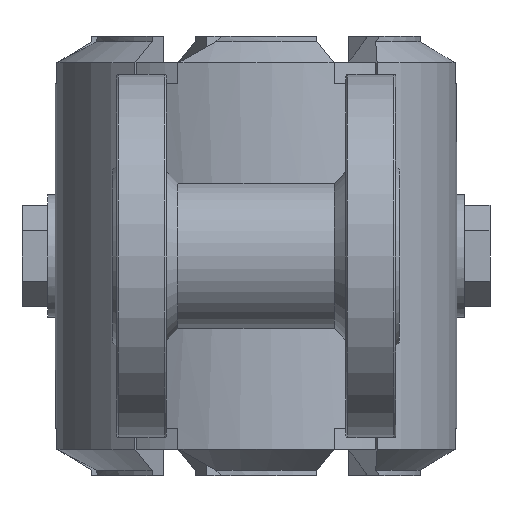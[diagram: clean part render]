
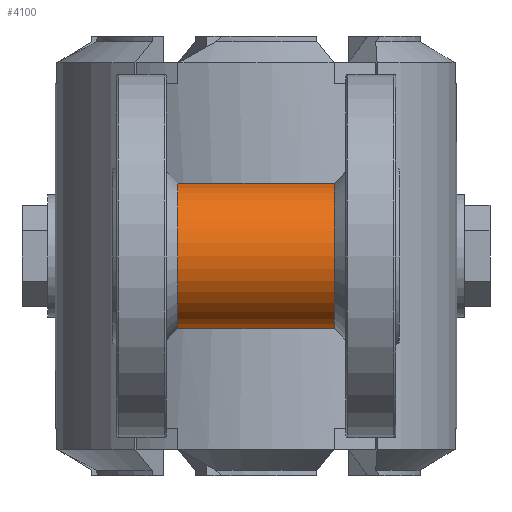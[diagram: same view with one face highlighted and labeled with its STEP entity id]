
A CAD part, front view. The second image highlights one B-rep face of the part: STEP entity #4100.
In plain terms, the highlighted cylindrical face has radius 19 mm (diameter 38 mm), a full revolution.
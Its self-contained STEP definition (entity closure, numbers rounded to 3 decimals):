
#2202=B_SPLINE_CURVE_WITH_KNOTS('',3,(#44150,#44151,#44152,#44153,#44154,
#44155,#44156,#44157,#44158,#44159),.UNSPECIFIED.,.F.,.F.,(4,2,2,2,4),(0.,
0.25,0.5,0.75,1.),.UNSPECIFIED.);
#2203=B_SPLINE_CURVE_WITH_KNOTS('',3,(#44164,#44165,#44166,#44167,#44168,
#44169,#44170,#44171,#44172,#44173),.UNSPECIFIED.,.F.,.F.,(4,2,2,2,4),(0.,
0.25,0.5,0.75,1.),.UNSPECIFIED.);
#2313=CYLINDRICAL_SURFACE('',#26986,19.);
#2499=FACE_BOUND('',#7547,.T.);
#2500=FACE_BOUND('',#7548,.T.);
#2501=FACE_BOUND('',#7549,.T.);
#2753=CIRCLE('',#26984,19.);
#2754=CIRCLE('',#26985,19.);
#4100=ADVANCED_FACE('',(#2499,#2500,#2501),#2313,.T.);
#7547=EDGE_LOOP('',(#14721,#14722,#14723,#14724));
#7548=EDGE_LOOP('',(#14725));
#7549=EDGE_LOOP('',(#14726));
#14721=ORIENTED_EDGE('',*,*,#20808,.F.);
#14722=ORIENTED_EDGE('',*,*,#20809,.F.);
#14723=ORIENTED_EDGE('',*,*,#20810,.F.);
#14724=ORIENTED_EDGE('',*,*,#20811,.F.);
#14725=ORIENTED_EDGE('',*,*,#20812,.T.);
#14726=ORIENTED_EDGE('',*,*,#20813,.T.);
#17213=VERTEX_POINT('',#44160);
#17214=VERTEX_POINT('',#44161);
#17215=VERTEX_POINT('',#44163);
#17216=VERTEX_POINT('',#44174);
#17217=VERTEX_POINT('',#44177);
#17218=VERTEX_POINT('',#44179);
#20808=EDGE_CURVE('',#17213,#17214,#2202,.T.);
#20809=EDGE_CURVE('',#17215,#17213,#23186,.T.);
#20810=EDGE_CURVE('',#17216,#17215,#2203,.T.);
#20811=EDGE_CURVE('',#17214,#17216,#23187,.T.);
#20812=EDGE_CURVE('',#17217,#17217,#2753,.T.);
#20813=EDGE_CURVE('',#17218,#17218,#2754,.T.);
#23186=LINE('',#44162,#26007);
#23187=LINE('',#44175,#26008);
#26007=VECTOR('',#31841,1.);
#26008=VECTOR('',#31842,1.);
#26984=AXIS2_PLACEMENT_3D('',#44176,#31843,#31844);
#26985=AXIS2_PLACEMENT_3D('',#44178,#31845,#31846);
#26986=AXIS2_PLACEMENT_3D('',#44180,#31847,#31848);
#31841=DIRECTION('',(-1.,0.,0.));
#31842=DIRECTION('',(1.,0.,0.));
#31843=DIRECTION('',(-1.,0.,0.));
#31844=DIRECTION('',(0.,0.,-1.));
#31845=DIRECTION('',(1.,0.,0.));
#31846=DIRECTION('',(0.,0.,1.));
#31847=DIRECTION('',(-1.,0.,0.));
#31848=DIRECTION('',(0.,0.,-1.));
#44150=CARTESIAN_POINT('',(-8.182,8.,-9.421));
#44151=CARTESIAN_POINT('',(-9.703,8.592,-8.385));
#44152=CARTESIAN_POINT('',(-10.982,9.22,-7.057));
#44153=CARTESIAN_POINT('',(-12.84,10.183,-3.843));
#44154=CARTESIAN_POINT('',(-13.386,10.496,-1.959));
#44155=CARTESIAN_POINT('',(-13.403,10.503,1.89));
#44156=CARTESIAN_POINT('',(-12.866,10.192,3.799));
#44157=CARTESIAN_POINT('',(-11.025,9.232,7.03));
#44158=CARTESIAN_POINT('',(-9.737,8.595,8.379));
#44159=CARTESIAN_POINT('',(-8.218,8.,9.421));
#44160=CARTESIAN_POINT('',(-8.182,8.,-9.421));
#44161=CARTESIAN_POINT('',(-8.218,8.,9.421));
#44162=CARTESIAN_POINT('',(56.516,8.,-9.421));
#44163=CARTESIAN_POINT('',(8.214,8.,-9.421));
#44164=CARTESIAN_POINT('',(8.249,8.,9.421));
#44165=CARTESIAN_POINT('',(9.766,8.594,8.38));
#44166=CARTESIAN_POINT('',(11.04,9.224,7.049));
#44167=CARTESIAN_POINT('',(12.886,10.186,3.828));
#44168=CARTESIAN_POINT('',(13.425,10.498,1.941));
#44169=CARTESIAN_POINT('',(13.426,10.502,-1.908));
#44170=CARTESIAN_POINT('',(12.883,10.189,-3.815));
#44171=CARTESIAN_POINT('',(11.029,9.228,-7.038));
#44172=CARTESIAN_POINT('',(9.737,8.592,-8.383));
#44173=CARTESIAN_POINT('',(8.214,8.,-9.421));
#44174=CARTESIAN_POINT('',(8.249,8.,9.421));
#44175=CARTESIAN_POINT('',(56.516,8.,9.421));
#44176=CARTESIAN_POINT('',(20.516,-8.5,0.));
#44177=CARTESIAN_POINT('',(20.516,-8.5,-19.));
#44178=CARTESIAN_POINT('',(-20.484,-8.5,0.));
#44179=CARTESIAN_POINT('',(-20.484,-8.5,19.));
#44180=CARTESIAN_POINT('',(56.516,-8.5,0.));
